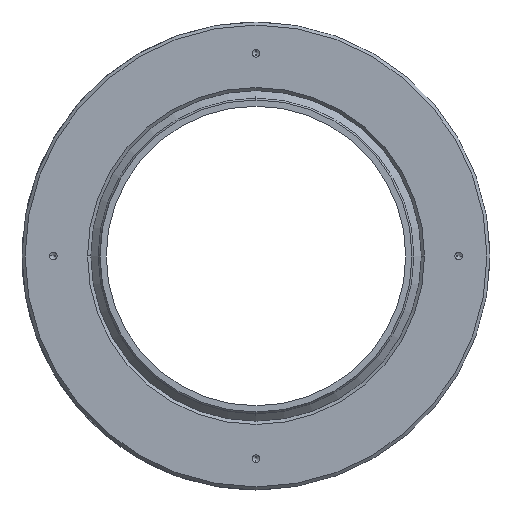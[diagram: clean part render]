
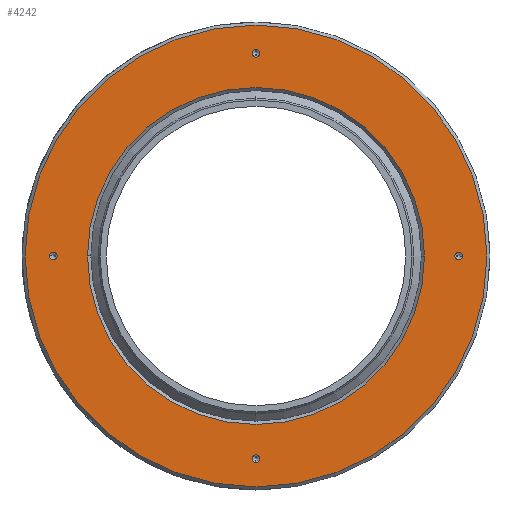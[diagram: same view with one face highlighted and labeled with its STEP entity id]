
A CAD part, front view. The second image highlights one B-rep face of the part: STEP entity #4242.
In plain terms, the highlighted planar face has unit normal (0, -1, 0).
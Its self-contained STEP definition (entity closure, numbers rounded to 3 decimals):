
#26 = CARTESIAN_POINT ( 'NONE',  ( 0., 0., -65. ) ) ;
#124 = FACE_BOUND ( 'NONE', #1788, .T. ) ;
#176 = DIRECTION ( 'NONE',  ( 0., -1., 0. ) ) ;
#186 = EDGE_LOOP ( 'NONE', ( #1807, #2592 ) ) ;
#264 = DIRECTION ( 'NONE',  ( 0., -1., 0. ) ) ;
#305 = DIRECTION ( 'NONE',  ( 1., 0., 0. ) ) ;
#306 = CARTESIAN_POINT ( 'NONE',  ( -66.25, 0., 0. ) ) ;
#314 = CARTESIAN_POINT ( 'NONE',  ( 0., 0., 0. ) ) ;
#427 = DIRECTION ( 'NONE',  ( -1., 0., 0. ) ) ;
#442 = CIRCLE ( 'NONE', #2855, 54. ) ;
#450 = DIRECTION ( 'NONE',  ( 0., -1., 0. ) ) ;
#491 = FACE_OUTER_BOUND ( 'NONE', #2015, .T. ) ;
#569 = CARTESIAN_POINT ( 'NONE',  ( 0., 0., 0. ) ) ;
#601 = AXIS2_PLACEMENT_3D ( 'NONE', #2740, #450, #427 ) ;
#608 = AXIS2_PLACEMENT_3D ( 'NONE', #1846, #4989, #1822 ) ;
#629 = ORIENTED_EDGE ( 'NONE', *, *, #2253, .F. ) ;
#663 = CARTESIAN_POINT ( 'NONE',  ( 0., 0., 66.25 ) ) ;
#671 = CIRCLE ( 'NONE', #1959, 1.25 ) ;
#840 = DIRECTION ( 'NONE',  ( 0., -1., 0. ) ) ;
#849 = EDGE_CURVE ( 'NONE', #1215, #3226, #4947, .T. ) ;
#857 = CIRCLE ( 'NONE', #3122, 1.25 ) ;
#858 = CARTESIAN_POINT ( 'NONE',  ( 0., 0., -65. ) ) ;
#880 = DIRECTION ( 'NONE',  ( -1., 0., 0. ) ) ;
#906 = VERTEX_POINT ( 'NONE', #4407 ) ;
#922 = DIRECTION ( 'NONE',  ( 0., 0., -1. ) ) ;
#952 = DIRECTION ( 'NONE',  ( 0., 0., -1. ) ) ;
#1078 = CARTESIAN_POINT ( 'NONE',  ( -65., 0., 0. ) ) ;
#1136 = EDGE_CURVE ( 'NONE', #2225, #4921, #2602, .T. ) ;
#1149 = DIRECTION ( 'NONE',  ( 0., -1., 0. ) ) ;
#1166 = DIRECTION ( 'NONE',  ( 0., 0., 1. ) ) ;
#1215 = VERTEX_POINT ( 'NONE', #2849 ) ;
#1259 = CARTESIAN_POINT ( 'NONE',  ( 0., 0., -66.25 ) ) ;
#1305 = FACE_BOUND ( 'NONE', #1797, .T. ) ;
#1349 = VERTEX_POINT ( 'NONE', #663 ) ;
#1509 = DIRECTION ( 'NONE',  ( 0., 0., -1. ) ) ;
#1530 = CIRCLE ( 'NONE', #4353, 1.25 ) ;
#1552 = DIRECTION ( 'NONE',  ( 0., -1., 0. ) ) ;
#1568 = EDGE_CURVE ( 'NONE', #2751, #1349, #857, .T. ) ;
#1651 = CARTESIAN_POINT ( 'NONE',  ( 0., 0., 0. ) ) ;
#1770 = ORIENTED_EDGE ( 'NONE', *, *, #4070, .T. ) ;
#1788 = EDGE_LOOP ( 'NONE', ( #1929, #2698 ) ) ;
#1790 = AXIS2_PLACEMENT_3D ( 'NONE', #3590, #4348, #880 ) ;
#1797 = EDGE_LOOP ( 'NONE', ( #2548, #2081 ) ) ;
#1800 = CARTESIAN_POINT ( 'NONE',  ( 66.25, 0., 0. ) ) ;
#1807 = ORIENTED_EDGE ( 'NONE', *, *, #1136, .F. ) ;
#1813 = CIRCLE ( 'NONE', #601, 1.25 ) ;
#1822 = DIRECTION ( 'NONE',  ( 0., 0., -1. ) ) ;
#1846 = CARTESIAN_POINT ( 'NONE',  ( 0., 0., 65. ) ) ;
#1901 = CIRCLE ( 'NONE', #4327, 54. ) ;
#1926 = DIRECTION ( 'NONE',  ( 0., -1., 0. ) ) ;
#1929 = ORIENTED_EDGE ( 'NONE', *, *, #1568, .F. ) ;
#1959 = AXIS2_PLACEMENT_3D ( 'NONE', #3353, #4903, #305 ) ;
#2015 = EDGE_LOOP ( 'NONE', ( #4447, #1770 ) ) ;
#2033 = FACE_BOUND ( 'NONE', #4843, .T. ) ;
#2081 = ORIENTED_EDGE ( 'NONE', *, *, #4236, .F. ) ;
#2225 = VERTEX_POINT ( 'NONE', #3812 ) ;
#2227 = EDGE_CURVE ( 'NONE', #4393, #4750, #671, .T. ) ;
#2253 = EDGE_CURVE ( 'NONE', #4750, #4393, #4705, .T. ) ;
#2270 = VERTEX_POINT ( 'NONE', #3403 ) ;
#2345 = CARTESIAN_POINT ( 'NONE',  ( 0., 0., -54. ) ) ;
#2414 = FACE_BOUND ( 'NONE', #186, .T. ) ;
#2466 = AXIS2_PLACEMENT_3D ( 'NONE', #2713, #840, #1509 ) ;
#2493 = ORIENTED_EDGE ( 'NONE', *, *, #2227, .F. ) ;
#2516 = DIRECTION ( 'NONE',  ( 0., 0., -1. ) ) ;
#2548 = ORIENTED_EDGE ( 'NONE', *, *, #3973, .F. ) ;
#2592 = ORIENTED_EDGE ( 'NONE', *, *, #4052, .F. ) ;
#2594 = AXIS2_PLACEMENT_3D ( 'NONE', #26, #1552, #2884 ) ;
#2602 = CIRCLE ( 'NONE', #1790, 1.25 ) ;
#2615 = ORIENTED_EDGE ( 'NONE', *, *, #2774, .F. ) ;
#2618 = DIRECTION ( 'NONE',  ( 1., 0., 0. ) ) ;
#2698 = ORIENTED_EDGE ( 'NONE', *, *, #3483, .F. ) ;
#2713 = CARTESIAN_POINT ( 'NONE',  ( 0., 0., 0. ) ) ;
#2740 = CARTESIAN_POINT ( 'NONE',  ( 65., 0., 0. ) ) ;
#2751 = VERTEX_POINT ( 'NONE', #4709 ) ;
#2774 = EDGE_CURVE ( 'NONE', #3226, #1215, #1530, .T. ) ;
#2849 = CARTESIAN_POINT ( 'NONE',  ( 0., 0., -63.75 ) ) ;
#2855 = AXIS2_PLACEMENT_3D ( 'NONE', #314, #264, #4964 ) ;
#2884 = DIRECTION ( 'NONE',  ( 0., 0., 1. ) ) ;
#3122 = AXIS2_PLACEMENT_3D ( 'NONE', #3225, #176, #952 ) ;
#3197 = DIRECTION ( 'NONE',  ( 0., -1., 0. ) ) ;
#3225 = CARTESIAN_POINT ( 'NONE',  ( 0., 0., 65. ) ) ;
#3226 = VERTEX_POINT ( 'NONE', #1259 ) ;
#3353 = CARTESIAN_POINT ( 'NONE',  ( -65., 0., 0. ) ) ;
#3364 = CIRCLE ( 'NONE', #2466, 74. ) ;
#3403 = CARTESIAN_POINT ( 'NONE',  ( 0., 0., -74. ) ) ;
#3483 = EDGE_CURVE ( 'NONE', #1349, #2751, #4320, .T. ) ;
#3486 = DIRECTION ( 'NONE',  ( 0., -1., 0. ) ) ;
#3579 = PLANE ( 'NONE',  #4659 ) ;
#3590 = CARTESIAN_POINT ( 'NONE',  ( 65., 0., 0. ) ) ;
#3812 = CARTESIAN_POINT ( 'NONE',  ( 63.75, 0., 0. ) ) ;
#3822 = AXIS2_PLACEMENT_3D ( 'NONE', #1078, #1149, #2618 ) ;
#3863 = VERTEX_POINT ( 'NONE', #4365 ) ;
#3973 = EDGE_CURVE ( 'NONE', #4126, #3863, #442, .T. ) ;
#4052 = EDGE_CURVE ( 'NONE', #4921, #2225, #1813, .T. ) ;
#4062 = FACE_BOUND ( 'NONE', #4274, .T. ) ;
#4070 = EDGE_CURVE ( 'NONE', #2270, #906, #4487, .T. ) ;
#4108 = ORIENTED_EDGE ( 'NONE', *, *, #849, .F. ) ;
#4126 = VERTEX_POINT ( 'NONE', #2345 ) ;
#4236 = EDGE_CURVE ( 'NONE', #3863, #4126, #1901, .T. ) ;
#4242 = ADVANCED_FACE ( 'NONE', ( #2033, #4062, #2414, #124, #491, #1305 ), #3579, .T. ) ;
#4244 = CARTESIAN_POINT ( 'NONE',  ( 0., 0., 0. ) ) ;
#4274 = EDGE_LOOP ( 'NONE', ( #4108, #2615 ) ) ;
#4314 = DIRECTION ( 'NONE',  ( 0., 0., -1. ) ) ;
#4320 = CIRCLE ( 'NONE', #608, 1.25 ) ;
#4327 = AXIS2_PLACEMENT_3D ( 'NONE', #569, #4773, #2516 ) ;
#4348 = DIRECTION ( 'NONE',  ( 0., -1., 0. ) ) ;
#4353 = AXIS2_PLACEMENT_3D ( 'NONE', #858, #1926, #1166 ) ;
#4365 = CARTESIAN_POINT ( 'NONE',  ( 0., 0., 54. ) ) ;
#4393 = VERTEX_POINT ( 'NONE', #306 ) ;
#4407 = CARTESIAN_POINT ( 'NONE',  ( 0., 0., 74. ) ) ;
#4447 = ORIENTED_EDGE ( 'NONE', *, *, #4448, .T. ) ;
#4448 = EDGE_CURVE ( 'NONE', #906, #2270, #3364, .T. ) ;
#4487 = CIRCLE ( 'NONE', #4646, 74. ) ;
#4646 = AXIS2_PLACEMENT_3D ( 'NONE', #4244, #3486, #4314 ) ;
#4659 = AXIS2_PLACEMENT_3D ( 'NONE', #1651, #3197, #922 ) ;
#4705 = CIRCLE ( 'NONE', #3822, 1.25 ) ;
#4709 = CARTESIAN_POINT ( 'NONE',  ( 0., 0., 63.75 ) ) ;
#4750 = VERTEX_POINT ( 'NONE', #4809 ) ;
#4773 = DIRECTION ( 'NONE',  ( 0., -1., 0. ) ) ;
#4809 = CARTESIAN_POINT ( 'NONE',  ( -63.75, 0., 0. ) ) ;
#4843 = EDGE_LOOP ( 'NONE', ( #629, #2493 ) ) ;
#4903 = DIRECTION ( 'NONE',  ( 0., -1., 0. ) ) ;
#4921 = VERTEX_POINT ( 'NONE', #1800 ) ;
#4947 = CIRCLE ( 'NONE', #2594, 1.25 ) ;
#4964 = DIRECTION ( 'NONE',  ( 0., 0., -1. ) ) ;
#4989 = DIRECTION ( 'NONE',  ( 0., -1., 0. ) ) ;
